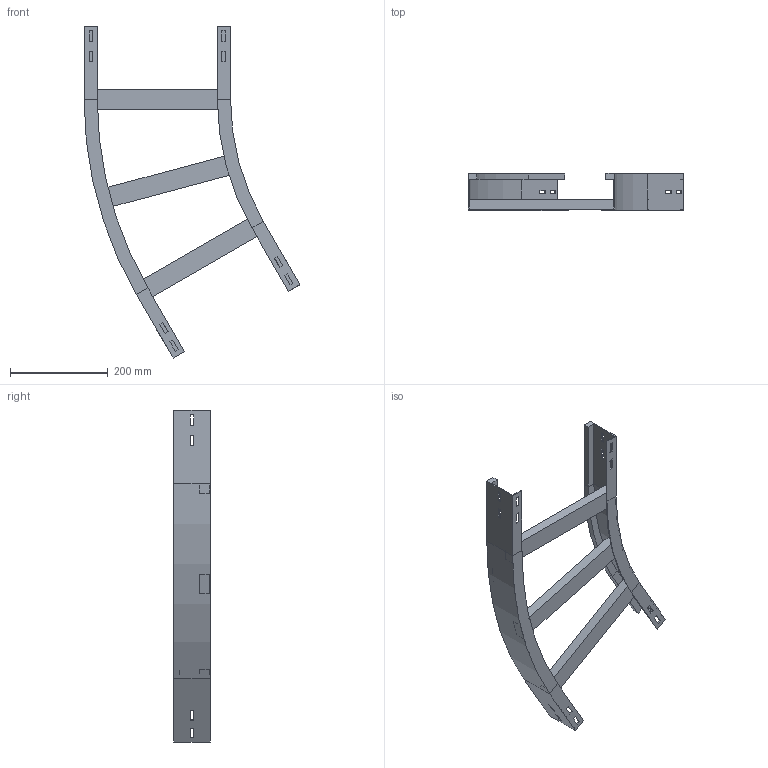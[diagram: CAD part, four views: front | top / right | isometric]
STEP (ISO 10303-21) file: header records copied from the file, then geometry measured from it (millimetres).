
FILE_DESCRIPTION (( 'STEP AP214' ), '1' );
FILE_NAME ('12B5C300.step', '2025-02-21T15:10:01', ( '' ), ( '' ), 'SwSTEP 2.0', 'SolidWorks 2023', '' );
FILE_SCHEMA (( 'AUTOMOTIVE_DESIGN' ));
Length unit declared in the file: millimetre
Products named in the file (4): A2_LONGH.INTERNO 30°_H75_R500; A2_LONGH.ESTERNO 30°_H75_R500+300; 12B5C300; TRAVERSINO_300
Assembly tree (5 placements, depth 2):
  12B5C300
    A2_LONGH.INTERNO 30°_H75_R500
    A2_LONGH.ESTERNO 30°_H75_R500+300
    TRAVERSINO_300  x3
Bounding box: 441.99 x 75 x 679.9 mm (x, y, z)
Volume: 1216377.9 mm3; surface area: 413044.1 mm2
Topology: 5 solids, 5 shells, 134 faces, 340 edges, 216 vertices
Faces by surface type: plane 126, cylinder 8
Entity records: 3821 total; most frequent: CARTESIAN_POINT 646, ORIENTED_EDGE 632, DIRECTION 592, EDGE_CURVE 316, VECTOR 300, LINE 300, VERTEX_POINT 200, EDGE_LOOP 154
